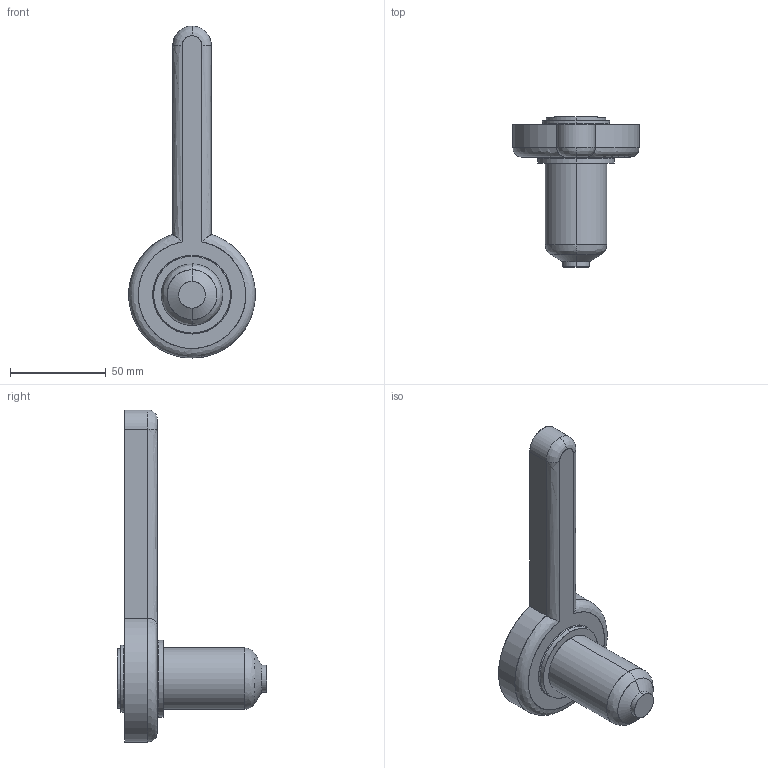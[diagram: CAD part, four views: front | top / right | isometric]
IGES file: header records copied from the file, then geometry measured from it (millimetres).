
Start section: SolidWorks IGES file using analytic representation for surfaces
Global section: file name: C:\Documents and Settings\ws-20\Desktop\TEMPORANEA\Sede UGBE4001-S-A C-54 L-76 P-0.IGS; native system: SolidWorks 2012; preprocessor: SolidWorks 2012; author: ws-20; date: 120306.141543; units: millimetre
Bounding box: 65.99 x 78.14 x 173 mm (x, y, z)
Surface area: 22734.6 mm2 (no closed solid volume)
Topology: 0 solids, 0 shells, 34 faces, 786 edges, 786 vertices
Faces by surface type: revolution 21, bspline 13
